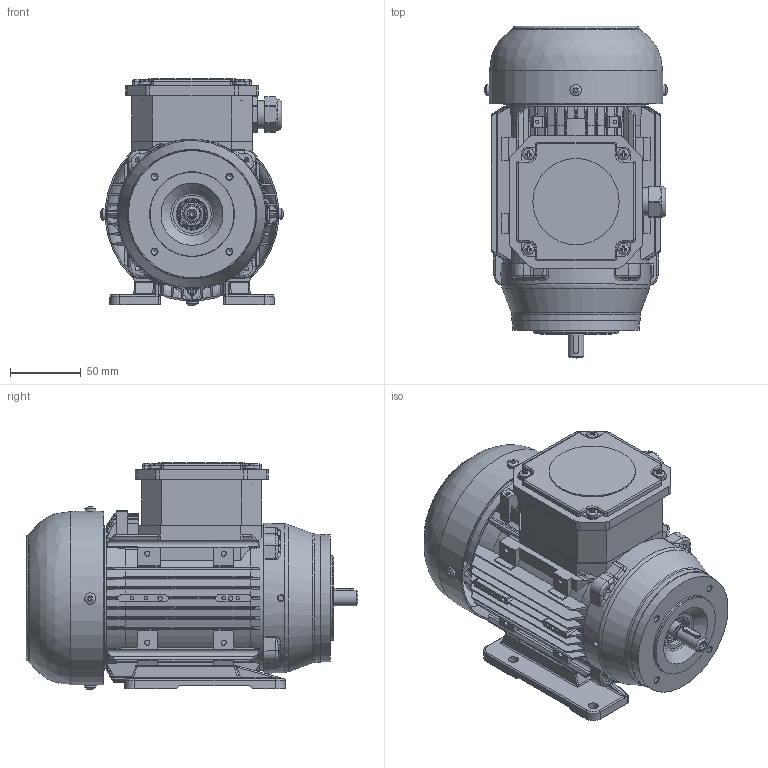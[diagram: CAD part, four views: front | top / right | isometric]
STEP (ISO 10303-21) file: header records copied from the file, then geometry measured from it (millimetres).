
FILE_DESCRIPTION(/* description */ (''),/* implementation_level */ '2;1');
FILE_NAME(/* name */ 'OUTLOOK VIEW QH63 PC B34 FT75 SPL.stp',/* time_stamp */ '2021-09-21T10:46:44+03:00',/* author */ (''),/* organization */ (''),/* preprocessor_version */ 'ST-DEVELOPER v16',/* originating_system */ 'SIEMENS PLM Software NX 11.0',/* authorisation */ '');
FILE_SCHEMA (('AUTOMOTIVE_DESIGN { 1 0 10303 214 3 1 1 1 }'));
Products named in the file (1): 260652D491E0ruyz
Bounding box: 129.21 x 234.84 x 160.6 mm (x, y, z)
Volume: 611032.4 mm3; surface area: 397182 mm2
Topology: 41 solids, 43 shells, 3096 faces, 8001 edges, 4984 vertices
Faces by surface type: plane 1214, cylinder 1030, bspline 376, cone 235, torus 132, sphere 92, extrusion 17
Full cylindrical faces by diameter (mm): 1.7 x2, 2.5 x12, 3 x4, 3.15 x1, 3.3 x10, 3.65 x14, 4 x9, 4.2 x4, 4.3 x1, 4.5 x4, 4.65 x4, 4.8 x4, 5 x4, 5.1 x1, 5.5 x1, 8 x9, 10.4 x1, 11 x2, 11.4 x2, 11.5 x1, 12 x5, 12.2 x1, 12.5 x1, 13 x1, 14.5 x1, 15.5 x2, 18 x1, 18.45 x8, 18.5 x1, 18.9 x1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
Entity records: 104442 total; most frequent: CARTESIAN_POINT 28262, ORIENTED_EDGE 14842, DIRECTION 14479, EDGE_CURVE 7421, AXIS2_PLACEMENT_3D 5550, VERTEX_POINT 4876, EDGE_LOOP 3723, VECTOR 3379
